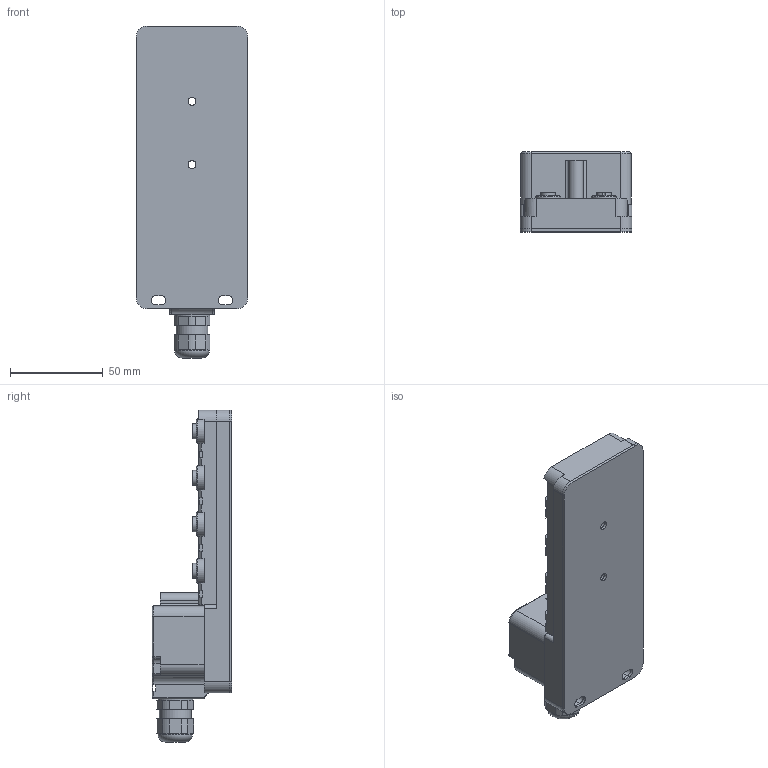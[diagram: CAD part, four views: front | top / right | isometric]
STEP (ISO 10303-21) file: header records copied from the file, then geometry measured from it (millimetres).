
FILE_DESCRIPTION (( 'STEP AP203' ), '1' );
FILE_NAME ('8MB12-K.step', '2019-02-11T13:55:25', ( '' ), ( '' ), 'SwSTEP 2.0', 'SolidWorks 2017', '' );
FILE_SCHEMA (( 'CONFIG_CONTROL_DESIGN' ));
Length unit declared in the file: metre
Products named in the file (1): 8MB12-K
Bounding box: 60 x 43 x 178.5 mm (x, y, z)
Volume: 394903.7 mm3; surface area: 111206.8 mm2
Topology: 2 solids, 2 shells, 1148 faces, 2804 edges, 1806 vertices
Faces by surface type: plane 712, cylinder 362, torus 42, cone 16, sphere 12, bspline 4
Full cylindrical faces by diameter (mm): 1.443 x78, 3 x6, 3.8 x4, 4.3 x4, 4.7 x4, 6 x6, 6.1 x6, 8 x2, 10.917 x16, 13.55 x16, 14 x16, 17 x2, 18.5 x2, 19 x2
Entity records: 33441 total; most frequent: CARTESIAN_POINT 6751, DIRECTION 5598, ORIENTED_EDGE 5124, EDGE_CURVE 2562, AXIS2_PLACEMENT_3D 1975, VERTEX_POINT 1778, LINE 1648, VECTOR 1648
